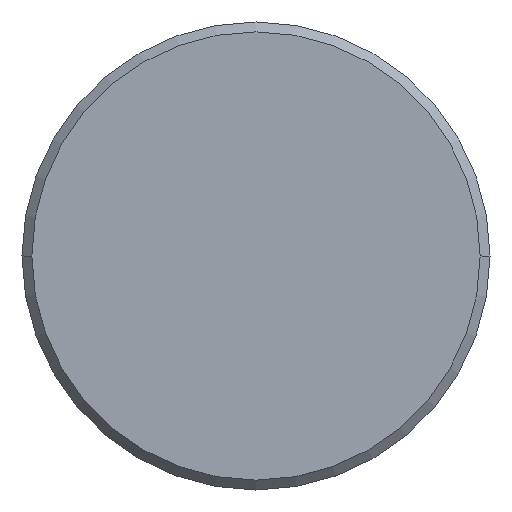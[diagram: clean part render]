
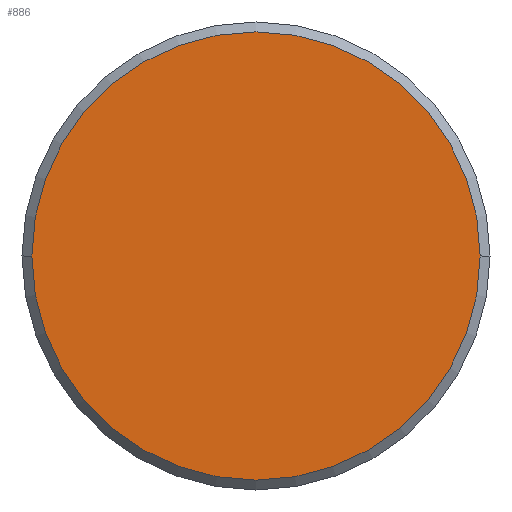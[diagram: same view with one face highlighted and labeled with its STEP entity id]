
A CAD part, left-side view. The second image highlights one B-rep face of the part: STEP entity #886.
In plain terms, the highlighted planar face has unit normal (-1, 0, 0).
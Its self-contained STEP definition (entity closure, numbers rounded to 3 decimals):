
#788=CARTESIAN_POINT('Vertex',(-15.,-45.5,0.)) ;
#791=CARTESIAN_POINT('Axis2P3D Location',(-15.,0.,0.)) ;
#795=CARTESIAN_POINT('Vertex',(-15.,45.5,0.)) ;
#815=CARTESIAN_POINT('Axis2P3D Location',(-15.,0.,0.)) ;
#877=CARTESIAN_POINT('Axis2P3D Location',(-15.,-22.75,0.)) ;
#792=DIRECTION('Axis2P3D Direction',(1.,0.,0.)) ;
#816=DIRECTION('Axis2P3D Direction',(1.,0.,0.)) ;
#878=DIRECTION('Axis2P3D Direction',(-1.,0.,0.)) ;
#879=DIRECTION('Axis2P3D XDirection',(0.,-1.,0.)) ;
#793=AXIS2_PLACEMENT_3D('Circle Axis2P3D',#791,#792,$) ;
#817=AXIS2_PLACEMENT_3D('Circle Axis2P3D',#815,#816,$) ;
#880=AXIS2_PLACEMENT_3D('Plane Axis2P3D',#877,#878,#879) ;
#883=ORIENTED_EDGE('',*,*,#819,.F.) ;
#884=ORIENTED_EDGE('',*,*,#797,.F.) ;
#886=ADVANCED_FACE('NONE',(#885),#881,.T.) ;
#794=CIRCLE('generated circle',#793,45.5) ;
#818=CIRCLE('generated circle',#817,45.5) ;
#797=EDGE_CURVE('',#789,#796,#794,.T.) ;
#819=EDGE_CURVE('',#796,#789,#818,.T.) ;
#882=EDGE_LOOP('',(#883,#884)) ;
#885=FACE_OUTER_BOUND('',#882,.T.) ;
#881=PLANE('Plane',#880) ;
#789=VERTEX_POINT('',#788) ;
#796=VERTEX_POINT('',#795) ;
